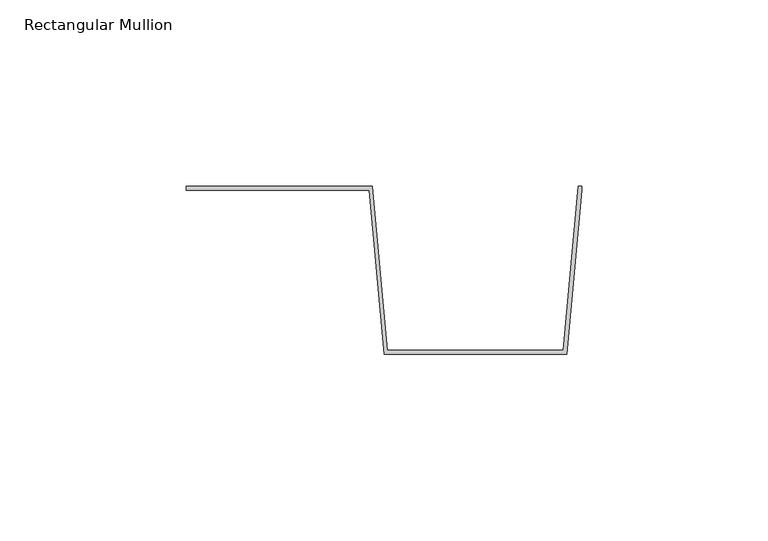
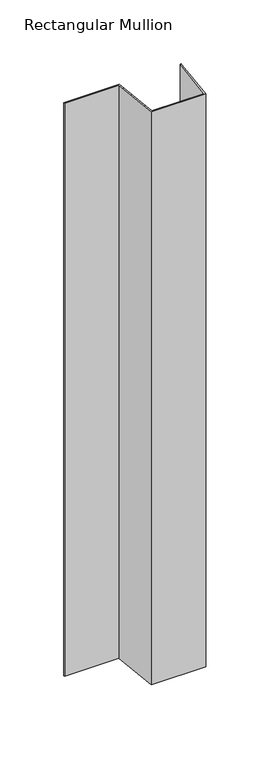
"""IFC4 building model written with IfcOpenShell, lengths in millimetres: member geometry, Rectangular Mullion : CD_NINELINE_Batten Intermediate."""

from ifc_helpers import new_model, si_unit, frame, origin, place, context, project, spatial, polyline, outline, extrude, source, transform, mapped, element, save


def rectangular_mullion_e0d82e72(model_context):
    return source(origin(), model_context, "Body", "SweptSolid", [
        extrude(outline(polyline([(0.0, 0.0), (49.9132146, 0.0), (53.9132146, -44.0), (101.0867854, -44.0), (105.0867854, 0.0), (106.0, 0.0), (106.0, -1.0), (102.0, -45.0), (53.0, -45.0), (49.0, -1.0), (0.0, -1.0), (0.0, 0.0)])), frame((0.0, 0.0, -547.0), z_axis=(0.0, 0.0, 1.0), x_axis=(1.0, 0.0, 0.0)), (0.0, 0.0, 1.0), 547.0),
    ])


if __name__ == "__main__":
    model = new_model("IFC4")
    model_context = context("Model", 3, world=origin())
    ifc_project = project(units=[si_unit("LENGTHUNIT", "METRE", prefix="MILLI")], contexts=[model_context])
    site = spatial("IfcSite", under=ifc_project)
    building = spatial("IfcBuilding", under=site)
    placement = place(None, origin())
    rectangular_mullion_shape = rectangular_mullion_e0d82e72(model_context)
    element("IfcMember", 1, ObjectType="Rectangular Mullion : CD_NINELINE_Batten Intermediate", at=placement, inside=building, context=model_context, shape_type="MappedRepresentation", body=[
        mapped(rectangular_mullion_shape, transform((0.0, 0.0, 0.0), x_axis=(1.0, 0.0, 0.0), y_axis=(0.0, 1.0, 0.0), z_axis=(0.0, 0.0, 1.0))),
    ])
    save(model, "model.ifc")
